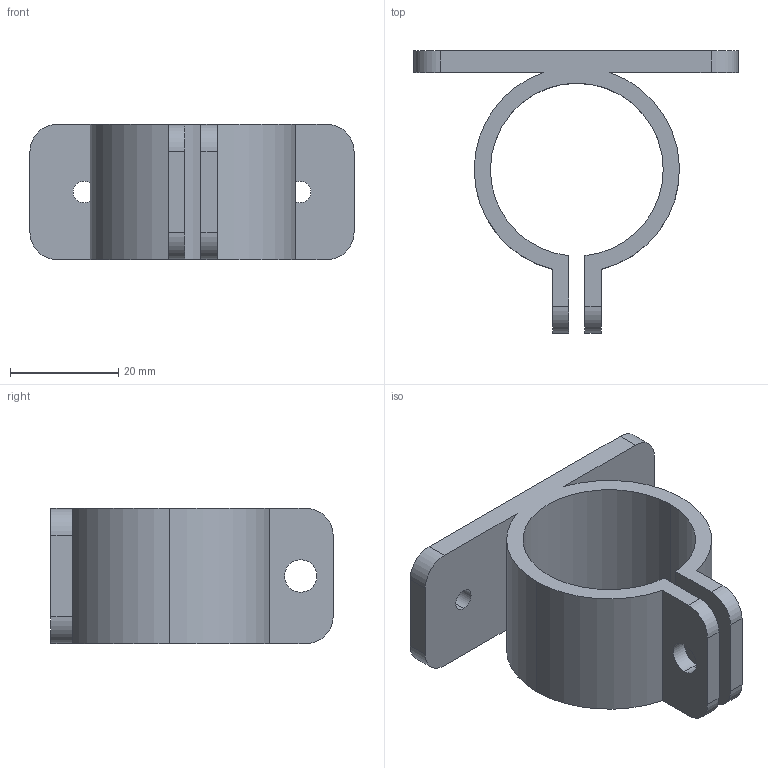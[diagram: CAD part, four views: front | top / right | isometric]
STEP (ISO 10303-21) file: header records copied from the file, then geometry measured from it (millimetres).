
FILE_DESCRIPTION (( 'STEP AP214' ), '1' );
FILE_NAME ('Clamp.STEP', '2024-10-17T16:36:55', ( '' ), ( '' ), 'SwSTEP 2.0', 'SolidWorks 2020', '' );
FILE_SCHEMA (( 'AUTOMOTIVE_DESIGN' ));
Length unit declared in the file: millimetre
Products named in the file (1): Clamp
Bounding box: 60 x 52.27 x 25 mm (x, y, z)
Volume: 15126.6 mm3; surface area: 10387.5 mm2
Topology: 1 solids, 1 shells, 35 faces, 99 edges, 66 vertices
Faces by surface type: cylinder 22, plane 13
Entity records: 1207 total; most frequent: DIRECTION 215, CARTESIAN_POINT 201, ORIENTED_EDGE 198, EDGE_CURVE 99, AXIS2_PLACEMENT_3D 80, VERTEX_POINT 66, LINE 55, VECTOR 55
